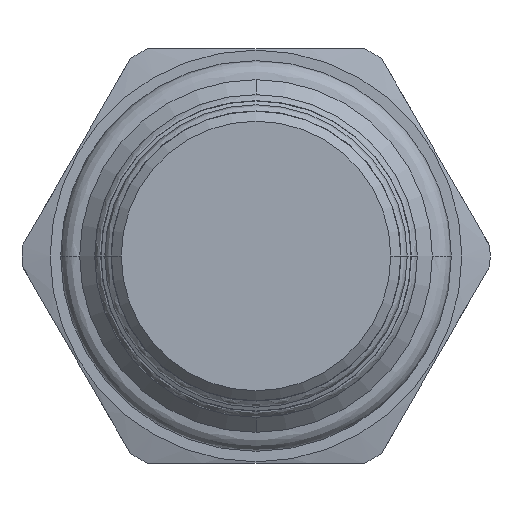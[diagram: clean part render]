
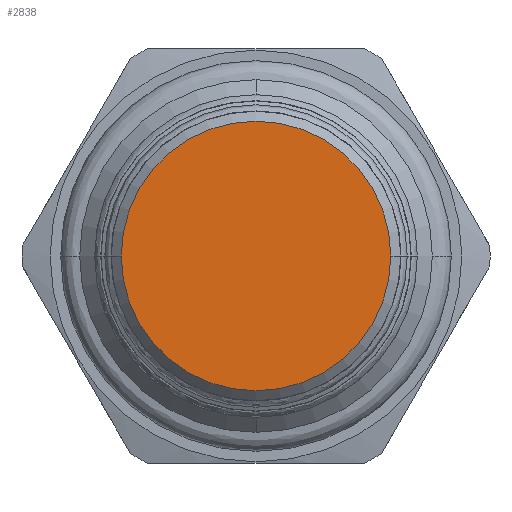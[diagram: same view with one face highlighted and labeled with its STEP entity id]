
A CAD part, front view. The second image highlights one B-rep face of the part: STEP entity #2838.
In plain terms, the highlighted planar face has unit normal (0, -1, 0).
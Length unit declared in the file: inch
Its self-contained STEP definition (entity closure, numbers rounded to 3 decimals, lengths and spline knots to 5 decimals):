
#1060=CARTESIAN_POINT('',(0.,-2.78,0.));
#1061=DIRECTION('',(0.,1.,0.));
#1062=DIRECTION('',(-1.,0.,0.));
#1063=AXIS2_PLACEMENT_3D('',#1060,#1061,#1062);
#1078=CARTESIAN_POINT('',(0.,-2.78,0.));
#1079=DIRECTION('',(0.,-1.,0.));
#1080=DIRECTION('',(-1.,0.,0.));
#1081=AXIS2_PLACEMENT_3D('',#1078,#1079,#1080);
#1183=CARTESIAN_POINT('',(-0.406,-2.78,0.));
#1184=CARTESIAN_POINT('',(0.406,-2.78,0.));
#1185=VERTEX_POINT('',#1183);
#1186=VERTEX_POINT('',#1184);
#2828=CARTESIAN_POINT('',(0.,-2.78,0.));
#2829=DIRECTION('',(0.,1.,0.));
#2830=DIRECTION('',(1.,0.,0.));
#2831=AXIS2_PLACEMENT_3D('',#2828,#2829,#2830);
#2832=PLANE('',#2831);
#2834=ORIENTED_EDGE('',*,*,#2833,.F.);
#2835=ORIENTED_EDGE('',*,*,#2818,.T.);
#2836=EDGE_LOOP('',(#2834,#2835));
#2837=FACE_OUTER_BOUND('',#2836,.F.);
#2838=ADVANCED_FACE('',(#2837),#2832,.F.);
#1064=CIRCLE('',#1063,0.406);
#1082=CIRCLE('',#1081,0.406);
#2818=EDGE_CURVE('',#1185,#1186,#1064,.T.);
#2833=EDGE_CURVE('',#1185,#1186,#1082,.T.);
